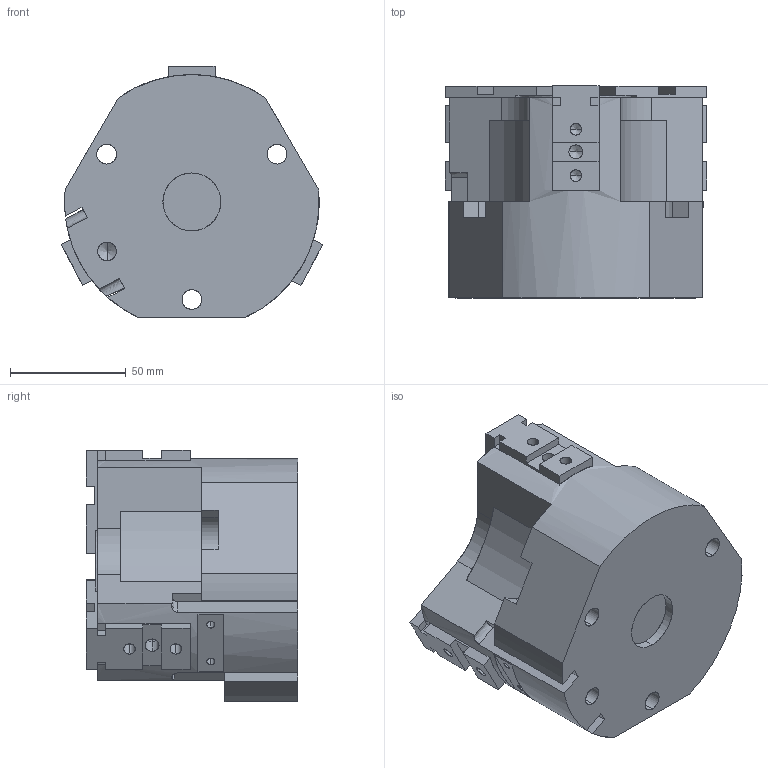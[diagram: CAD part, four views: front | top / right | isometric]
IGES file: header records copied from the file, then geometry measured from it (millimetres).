
Start section: SolidWorks IGES file using analytic representation for surfaces
Global section: file name: C:\Documents and Settings\SGA\Bureau\ROMAIN\OPE 110-3 S\OPE 110-3 S fermé.IGS; native system: SolidWorks 2010; preprocessor: SolidWorks 2010; author: SGA; date: 110928.103034; units: millimetre
Bounding box: 112.96 x 91.5 x 108.56 mm (x, y, z)
Surface area: 94901.8 mm2 (no closed solid volume)
Topology: 0 solids, 0 shells, 601 faces, 6796 edges, 6750 vertices
Faces by surface type: bspline 481, revolution 120
